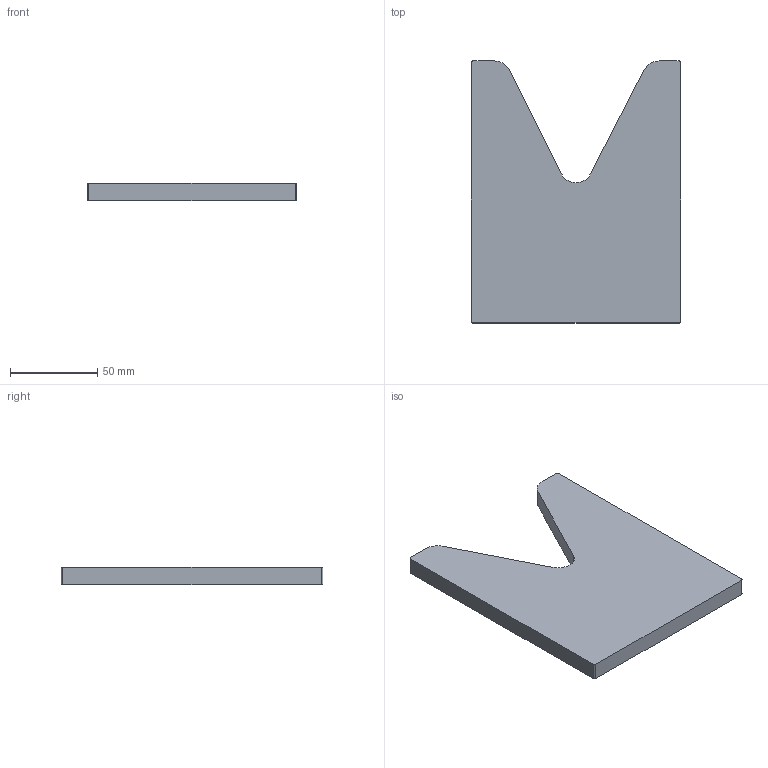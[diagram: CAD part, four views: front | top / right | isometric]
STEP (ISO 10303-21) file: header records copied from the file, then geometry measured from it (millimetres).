
FILE_DESCRIPTION (( 'STEP AP203' ), '1' );
FILE_NAME ('4143_4144_GRA_STAFFA1.STEP', '2019-02-20T18:37:53', ( '' ), ( '' ), 'SwSTEP 2.0', 'SolidWorks 2019', '' );
FILE_SCHEMA (( 'CONFIG_CONTROL_DESIGN' ));
Length unit declared in the file: millimetre
Products named in the file (1): 4143_4144_GRA_STAFFA1
Bounding box: 120 x 150 x 10 mm (x, y, z)
Volume: 147315.1 mm3; surface area: 35654 mm2
Topology: 1 solids, 1 shells, 16 faces, 42 edges, 28 vertices
Faces by surface type: plane 9, cylinder 7
Entity records: 577 total; most frequent: DIRECTION 90, CARTESIAN_POINT 87, ORIENTED_EDGE 84, EDGE_CURVE 42, AXIS2_PLACEMENT_3D 31, LINE 28, VECTOR 28, VERTEX_POINT 28
